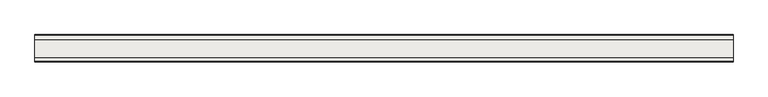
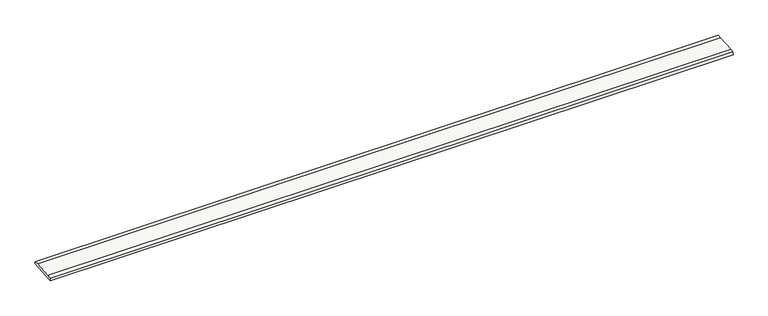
"""IFC4 building model written with IfcOpenShell, lengths in millimetres: slab geometry, ROSA GRES_245 FL : Rejilla 245 FL_Tresor_Java_Anti-Slip."""

import ifcopenshell
import ifcopenshell.guid

model = None  # the IFC model being written
_history = None  # IfcOwnerHistory: only IFC2X3 demands one
_inside = {}  # id of a spatial element -> (the spatial element, [elements in it])
_under = {}  # id of a project, library or spatial element -> (it, [spatial elements below it])
_declared = {}  # id of a project -> (the project, [libraries it declares])
_typed = {}  # id of a type object -> (the type object, [elements of that type])
_made_of = {}  # id of a material, layer set ... -> (it, [elements and type objects made of it])


def new_model(schema):
    """Start an empty IFC model of exactly this schema.

    Asked for "IFC4X3", IfcOpenShell would pick the latest addendum, in which some entities
    have other attributes; the version numbers below select the first issue.
    IFC2X3 requires an IfcOwnerHistory on every rooted entity: one is made here for all.
    """
    global model, _history
    if schema == "IFC4X3":
        model = ifcopenshell.file(schema_version=(4, 3, 0, 0))
    else:
        model = ifcopenshell.file(schema=schema)
    _inside.clear()
    _under.clear()
    _declared.clear()
    _typed.clear()
    _made_of.clear()
    _history = None
    if model.schema == "IFC2X3":
        org = make("IfcOrganization", Name="unknown")
        user = make(
            "IfcPersonAndOrganization",
            ThePerson=make("IfcPerson", FamilyName="unknown"),
            TheOrganization=org,
        )
        app = make(
            "IfcApplication",
            ApplicationDeveloper=org,
            Version="unknown",
            ApplicationFullName="unknown",
            ApplicationIdentifier="unknown",
        )
        _history = make(
            "IfcOwnerHistory",
            OwningUser=user,
            OwningApplication=app,
            ChangeAction="ADDED",
            CreationDate=0,
        )
    return model


def make(cls, **values):
    """One entity of the class cls with the attributes given. An attribute that is None is left unset."""
    return model.create_entity(
        cls, **{name: value for name, value in values.items() if value is not None}
    )


def rooted(cls, **values):
    """An entity with a GlobalId (a new one), such as an element, a storey or a relation."""
    return make(cls, GlobalId=ifcopenshell.guid.new(), OwnerHistory=_history, **values)


def si_unit(unit_type, name, prefix=None):
    """IfcSIUnit, for example si_unit("LENGTHUNIT", "METRE", prefix="MILLI")."""
    return make("IfcSIUnit", UnitType=unit_type, Prefix=prefix, Name=name)


def assignment(units):
    """IfcUnitAssignment: the units of a project."""
    return None if units is None else make("IfcUnitAssignment", Units=units)


def point(xyz):
    """IfcCartesianPoint."""
    return None if xyz is None else make("IfcCartesianPoint", Coordinates=xyz)


def direction(xyz):
    """IfcDirection."""
    return None if xyz is None else make("IfcDirection", DirectionRatios=xyz)


def frame(location, z_axis=None, x_axis=None):
    """IfcAxis2Placement3D, a coordinate frame: its origin and axes. An axis left out is left unset."""
    return make(
        "IfcAxis2Placement3D",
        Location=point(location),
        Axis=direction(z_axis),
        RefDirection=direction(x_axis),
    )


def frame_2d(location, x_axis=None):
    """IfcAxis2Placement2D, a coordinate frame in the plane: its origin and x axis."""
    return make(
        "IfcAxis2Placement2D", Location=point(location), RefDirection=direction(x_axis)
    )


def origin():
    """The frame at (0, 0, 0) with its axes left unset."""
    return frame((0.0, 0.0, 0.0))


def place(relative_to, where):
    """IfcLocalPlacement: puts the frame where relative to a parent placement (None: the world)."""
    return make(
        "IfcLocalPlacement", PlacementRelTo=relative_to, RelativePlacement=where
    )


def context(
    kind, dimensions, precision=None, world=None, true_north=None, identifier=None
):
    """IfcGeometricRepresentationContext, for example the 3D "Model" context."""
    return make(
        "IfcGeometricRepresentationContext",
        ContextIdentifier=identifier,
        ContextType=kind,
        CoordinateSpaceDimension=dimensions,
        Precision=precision,
        WorldCoordinateSystem=world,
        TrueNorth=true_north,
    )


def project(units=None, contexts=None):
    """IfcProject with its units and contexts."""
    return rooted(
        "IfcProject",
        Name="project",
        RepresentationContexts=contexts,
        UnitsInContext=assignment(units),
    )


def spatial(cls, under=None, at=None, **own):
    """A site, building, storey or space (cls), placed at a placement, below another one or the project."""
    s = rooted(cls, ObjectPlacement=at, **own)
    if under is not None:
        _under.setdefault(under.id(), (under, []))[1].append(s)
    return s


def polyline(points):
    """IfcPolyline through the points."""
    return make("IfcPolyline", Points=[point(p) for p in points])


def circle_curve(where, radius):
    """IfcCircle in the frame where."""
    return make("IfcCircle", Position=where, Radius=radius)


def trimmed(basis, trim1, trim2, sense, master):
    """IfcTrimmedCurve: the piece of a basis curve between two trims."""
    return make(
        "IfcTrimmedCurve",
        BasisCurve=basis,
        Trim1=trim1,
        Trim2=trim2,
        SenseAgreement=sense,
        MasterRepresentation=master,
    )


def segment(curve, same_sense, transition):
    """IfcCompositeCurveSegment."""
    return make(
        "IfcCompositeCurveSegment",
        Transition=transition,
        SameSense=same_sense,
        ParentCurve=curve,
    )


def composite_curve(segments, self_intersect=None):
    """IfcCompositeCurve: segments joined end to end."""
    return make("IfcCompositeCurve", Segments=segments, SelfIntersect=self_intersect)


def outline(outer, holes=None, kind="AREA"):
    """IfcArbitraryClosedProfileDef: a profile drawn as a closed curve; with holes, ...WithVoids."""
    if holes is None:
        return make("IfcArbitraryClosedProfileDef", ProfileType=kind, OuterCurve=outer)
    return make(
        "IfcArbitraryProfileDefWithVoids",
        ProfileType=kind,
        OuterCurve=outer,
        InnerCurves=holes,
    )


def extrude(swept, where, along, depth):
    """IfcExtrudedAreaSolid: the profile swept, set in the frame where, extruded along a direction by depth."""
    return make(
        "IfcExtrudedAreaSolid",
        SweptArea=swept,
        Position=where,
        ExtrudedDirection=direction(along),
        Depth=depth,
    )


def shape(context_of_items, identifier, shape_type, items):
    """IfcShapeRepresentation: the items that make up one representation, for example the "Body"."""
    return make(
        "IfcShapeRepresentation",
        ContextOfItems=context_of_items,
        RepresentationIdentifier=identifier,
        RepresentationType=shape_type,
        Items=items,
    )


def source(mapping_origin, context_of_items, identifier, shape_type, items):
    """IfcRepresentationMap: a shape defined once, which mapped items show again and again."""
    return make(
        "IfcRepresentationMap",
        MappingOrigin=mapping_origin,
        MappedRepresentation=shape(context_of_items, identifier, shape_type, items),
    )


def transform(
    local_origin,
    x_axis=None,
    y_axis=None,
    z_axis=None,
    scale=None,
    scale2=None,
    scale3=None,
    uniform=True,
):
    """IfcCartesianTransformationOperator3D, or its non-uniform kind. x_axis, y_axis, z_axis: its Axis1, 2, 3."""
    if uniform:
        return make(
            "IfcCartesianTransformationOperator3D",
            Axis1=direction(x_axis),
            Axis2=direction(y_axis),
            LocalOrigin=point(local_origin),
            Scale=scale,
            Axis3=direction(z_axis),
        )
    return make(
        "IfcCartesianTransformationOperator3DnonUniform",
        Axis1=direction(x_axis),
        Axis2=direction(y_axis),
        LocalOrigin=point(local_origin),
        Scale=scale,
        Axis3=direction(z_axis),
        Scale2=scale2,
        Scale3=scale3,
    )


def mapped(mapping_source, mapping_target):
    """IfcMappedItem: shows the shape of a source again, moved by a transform."""
    return make(
        "IfcMappedItem", MappingSource=mapping_source, MappingTarget=mapping_target
    )


def made_of(thing, what):
    """Note that an element or type object is made of a material, layer set ...; save() writes the relation."""
    if what is not None:
        _made_of.setdefault(what.id(), (what, []))[1].append(thing)
    return thing


def element(
    cls,
    number,
    at=None,
    inside=None,
    cuts=None,
    type_object=None,
    material=None,
    context=None,
    identifier="Body",
    shape_type=None,
    held_by="IfcProductDefinitionShape",
    body=None,
    shapes=None,
    **own,
):
    """One element of the class cls, such as IfcWall. Its Tag is "e" and its number.

    at: its placement. inside: the storey or other place that contains it. cuts: it is an
    opening in that element (IfcRelVoidsElement). A single representation is given by context,
    identifier, shape_type and body (its items); several are given by shapes. held_by: the class
    of the entity that holds the representations. save() writes the other relations.
    """
    e = rooted(cls, Tag="e%d" % number, ObjectPlacement=at, **own)
    if body is not None:
        shapes = [shape(context, identifier, shape_type, body)]
    if shapes is not None:
        e.Representation = make(held_by, Representations=shapes)
    if inside is not None:
        _inside.setdefault(inside.id(), (inside, []))[1].append(e)
    if cuts is not None:
        rooted(
            "IfcRelVoidsElement", RelatingBuildingElement=cuts, RelatedOpeningElement=e
        )
    if type_object is not None:
        _typed.setdefault(type_object.id(), (type_object, []))[1].append(e)
    return made_of(e, material)


def aggregate(whole, parts):
    """IfcRelAggregates: a whole, such as a stair, and the parts it consists of."""
    return rooted("IfcRelAggregates", RelatingObject=whole, RelatedObjects=parts)


def save(model, path):
    """Write the relations noted so far, then the file.

    IfcRelAggregates (storeys below a building ...), IfcRelContainedInSpatialStructure (elements
    in a storey), IfcRelDefinesByType, IfcRelAssociatesMaterial and IfcRelDeclares: one each for
    every whole, place, type object, material and project.
    """
    for whole, parts in _under.values():
        aggregate(whole, parts)
    for where, things in _inside.values():
        rooted(
            "IfcRelContainedInSpatialStructure",
            RelatedElements=things,
            RelatingStructure=where,
        )
    for kind, things in _typed.values():
        rooted("IfcRelDefinesByType", RelatedObjects=things, RelatingType=kind)
    for what, things in _made_of.values():
        rooted("IfcRelAssociatesMaterial", RelatedObjects=things, RelatingMaterial=what)
    for by, libraries in _declared.values():
        rooted("IfcRelDeclares", RelatingContext=by, RelatedDefinitions=libraries)
    model.write(path)


def slab_916a11a8(model_context):
    return source(origin(), model_context, "Body", "SweptSolid", [
        extrude(outline(composite_curve([segment(polyline([(549.5004127, 244.3285715), (558.1409275, 222.9386957), (310.0, 202.7411783), (315.0453746, 225.1954084)]), True, "CONTINUOUS"), segment(trimmed(circle_curve(frame_2d((452.3998099, -483.1671462)), 721.556477), [point((315.0453746, 225.1954084))], [point((350.5656678, 231.1671992))], False, "CARTESIAN"), True, "CONTINUOUS"), segment(polyline([(350.5656678, 231.1671992), (513.9321982, 244.464475)]), True, "CONTINUOUS"), segment(trimmed(circle_curve(frame_2d((528.960151, -476.9354905)), 721.556477), [point((513.9321982, 244.464475))], [point((549.5004127, 244.3285715))], False, "CARTESIAN"), True, "CONTINUOUS")], self_intersect=False)), frame((0.0, 0.0, 0.0), z_axis=(1.0, 0.0, 0.0), x_axis=(0.0, 1.0, 0.0)), (0.0, 0.0, 1.0), 6304.0),
    ])


if __name__ == "__main__":
    model = new_model("IFC4")
    model_context = context("Model", 3, world=origin())
    ifc_project = project(units=[si_unit("LENGTHUNIT", "METRE", prefix="MILLI")], contexts=[model_context])
    site = spatial("IfcSite", under=ifc_project)
    building = spatial("IfcBuilding", under=site)
    placement = place(None, origin())
    slab_shape = slab_916a11a8(model_context)
    element("IfcSlab", 1, ObjectType="ROSA GRES_245 FL : Rejilla 245 FL_Tresor_Java_Anti-Slip", at=placement, inside=building, context=model_context, shape_type="MappedRepresentation", body=[
        mapped(slab_shape, transform((0.0, 0.0, 0.0), x_axis=(1.0, 0.0, 0.0), y_axis=(0.0, 1.0, 0.0), z_axis=(0.0, 0.0, 1.0))),
    ])
    save(model, "model.ifc")
